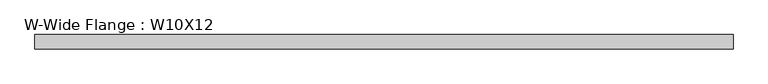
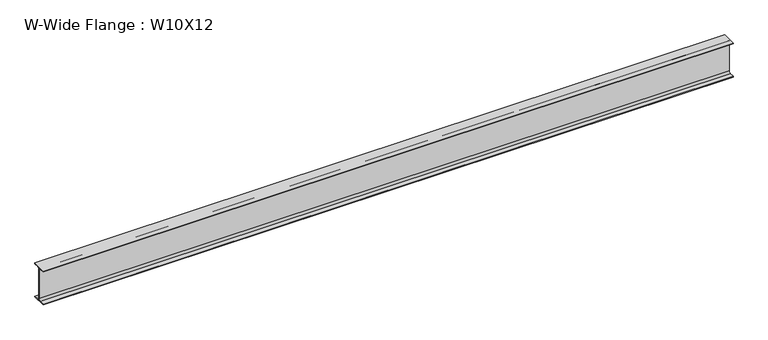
"""IFC4 building model written with IfcOpenShell, lengths in millimetres: beam geometry, W-Wide Flange : W10X12."""

from ifc_helpers import new_model, si_unit, point, frame, frame_2d, origin, place, context, project, spatial, polyline, circle_curve, trimmed, segment, composite_curve, outline, extrude, source, transform, mapped, element, save


def w_wide_flange_w10x12_1bd4f99f(model_context):
    return source(origin(), model_context, "Body", "SweptSolid", [
        extrude(outline(composite_curve([segment(polyline([(50.292, -120.015), (50.292, -125.349), (-50.292, -125.349), (-50.292, -120.015), (-16.129, -120.015)]), True, "CONTINUOUS"), segment(trimmed(circle_curve(frame_2d((-16.129, -106.299)), 13.716), [point((-16.129, -120.015))], [point((-2.413, -106.299))], True, "CARTESIAN"), True, "CONTINUOUS"), segment(polyline([(-2.413, -106.299), (-2.413, 106.299)]), True, "CONTINUOUS"), segment(trimmed(circle_curve(frame_2d((-16.129, 106.299)), 13.716), [point((-2.413, 106.299))], [point((-16.129, 120.015))], True, "CARTESIAN"), True, "CONTINUOUS"), segment(polyline([(-16.129, 120.015), (-50.292, 120.015), (-50.292, 125.349), (50.292, 125.349), (50.292, 120.015), (16.129, 120.015)]), True, "CONTINUOUS"), segment(trimmed(circle_curve(frame_2d((16.129, 106.299)), 13.716), [point((16.129, 120.015))], [point((2.413, 106.299))], True, "CARTESIAN"), True, "CONTINUOUS"), segment(polyline([(2.413, 106.299), (2.413, -106.299)]), True, "CONTINUOUS"), segment(trimmed(circle_curve(frame_2d((16.129, -106.299)), 13.716), [point((2.413, -106.299))], [point((16.129, -120.015))], True, "CARTESIAN"), True, "CONTINUOUS"), segment(polyline([(16.129, -120.015), (50.292, -120.015)]), True, "CONTINUOUS")], self_intersect=False)), frame((-2408.2375, 0.0, 0.0), z_axis=(1.0, 0.0, 0.0), x_axis=(0.0, 1.0, 0.0)), (0.0, 0.0, 1.0), 4828.794),
    ])


if __name__ == "__main__":
    model = new_model("IFC4")
    model_context = context("Model", 3, world=origin())
    ifc_project = project(units=[si_unit("LENGTHUNIT", "METRE", prefix="MILLI")], contexts=[model_context])
    site = spatial("IfcSite", under=ifc_project)
    building = spatial("IfcBuilding", under=site)
    placement = place(None, origin())
    w_wide_flange_w10x12_shape = w_wide_flange_w10x12_1bd4f99f(model_context)
    element("IfcBeam", 1, ObjectType="W-Wide Flange : W10X12", at=placement, inside=building, context=model_context, shape_type="MappedRepresentation", body=[
        mapped(w_wide_flange_w10x12_shape, transform((0.0, 0.0, 0.0), x_axis=(1.0, 0.0, 0.0), y_axis=(0.0, 1.0, 0.0), z_axis=(0.0, 0.0, 1.0))),
    ])
    save(model, "model.ifc")
